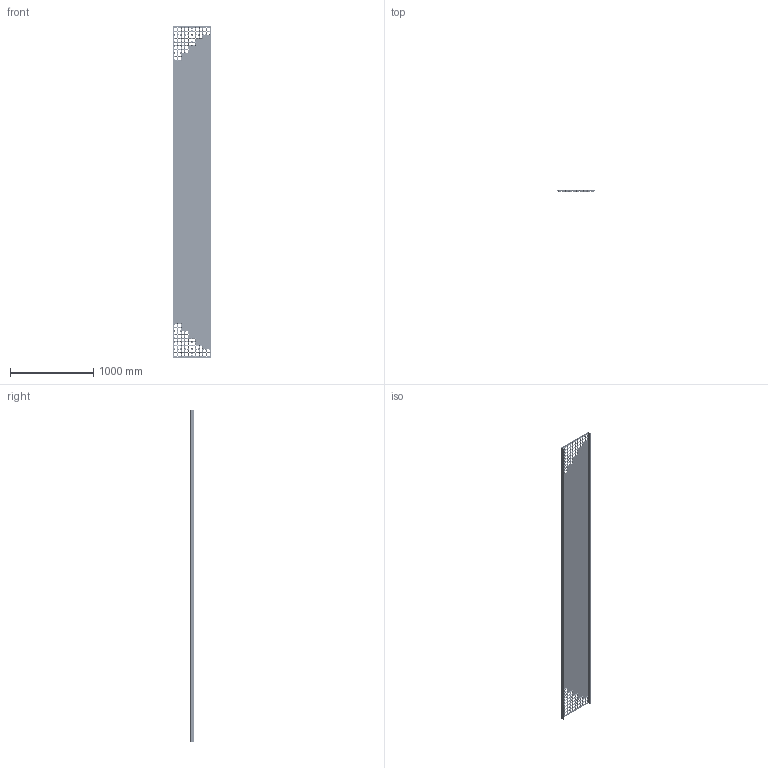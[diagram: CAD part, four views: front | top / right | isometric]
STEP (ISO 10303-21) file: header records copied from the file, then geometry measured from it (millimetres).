
FILE_DESCRIPTION (( 'STEP AP214' ), '1' );
FILE_NAME ('CUBE-Panel-B-CUBE-Oy-4000x460x42x2-st240-C050180100.STEP', '2021-03-24T08:25:21', ( '' ), ( '' ), 'SwSTEP 2.0', 'SolidWorks 2021', '' );
FILE_SCHEMA (( 'AUTOMOTIVE_DESIGN' ));
Products named in the file (1): CUBE-Panel-B-CUBE-Oy-4000x460x42x2-st240-C050180100
Bounding box: 460 x 42.79 x 4000 mm (x, y, z)
Volume: 4209120.5 mm3; surface area: 4262873.8 mm2
Topology: 1 solids, 1 shells, 10586 faces, 28220 edges, 17144 vertices
Faces by surface type: bspline 5328, cylinder 2084, plane 2022, cone 576, torus 576
Entity records: 437886 total; most frequent: CARTESIAN_POINT 225519, ORIENTED_EDGE 56440, DIRECTION 28234, EDGE_CURVE 28220, VERTEX_POINT 17144, B_SPLINE_CURVE_WITH_KNOTS 13232, AXIS2_PLACEMENT_3D 11315, EDGE_LOOP 10590
